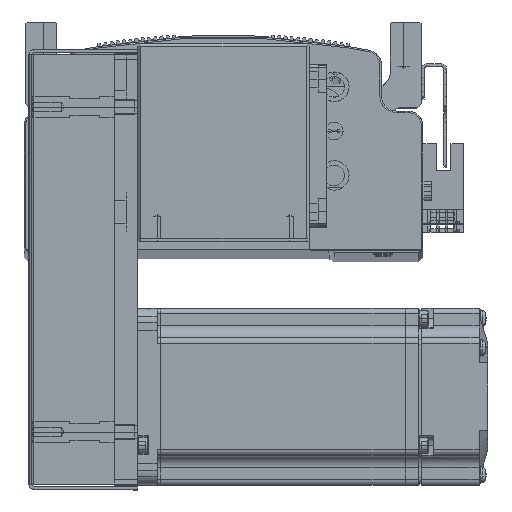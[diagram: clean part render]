
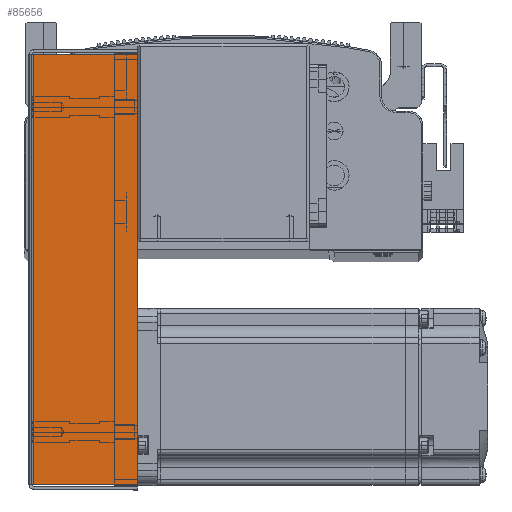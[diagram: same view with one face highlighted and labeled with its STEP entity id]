
A CAD part, top view. The second image highlights one B-rep face of the part: STEP entity #85656.
In plain terms, the highlighted planar face has unit normal (0, 0, 1) as drawn and (0, 0, -1) by its records, which use the part's own axes.
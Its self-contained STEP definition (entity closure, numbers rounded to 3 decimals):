
#7400 = PLANE ( 'NONE',  #43782 ) ;
#7402 = CARTESIAN_POINT ( 'NONE',  ( 0., 0., -34.5 ) ) ;
#7403 = DIRECTION ( 'NONE',  ( 0., 0., 1. ) ) ;
#7406 = DIRECTION ( 'NONE',  ( 0., -1., 0. ) ) ;
#14402 = EDGE_LOOP ( 'NONE', ( #75231, #75282, #75333, #75334 ) ) ;
#32034 = FACE_OUTER_BOUND ( 'NONE', #14402, .T. ) ;
#43782 = AXIS2_PLACEMENT_3D ( 'NONE', #7402, #7403, #7406 ) ;
#59638 = EDGE_CURVE ( 'NONE', #65270, #65273, #73138, .T. ) ;
#59689 = EDGE_CURVE ( 'NONE', #65265, #65270, #73285, .T. ) ;
#59694 = EDGE_CURVE ( 'NONE', #65265, #65224, #73266, .T. ) ;
#59727 = EDGE_CURVE ( 'NONE', #65224, #65273, #73331, .T. ) ;
#65224 = VERTEX_POINT ( 'NONE', #72584 ) ;
#65265 = VERTEX_POINT ( 'NONE', #72578 ) ;
#65270 = VERTEX_POINT ( 'NONE', #72559 ) ;
#65273 = VERTEX_POINT ( 'NONE', #72546 ) ;
#72546 = CARTESIAN_POINT ( 'NONE',  ( 72.793, 36., -34.5 ) ) ;
#72559 = CARTESIAN_POINT ( 'NONE',  ( -72.793, 36., -34.5 ) ) ;
#72578 = CARTESIAN_POINT ( 'NONE',  ( -72.793, 0.737, -34.5 ) ) ;
#72584 = CARTESIAN_POINT ( 'NONE',  ( 72.793, 0.737, -34.5 ) ) ;
#73138 = LINE ( 'NONE', #79249, #73140 ) ;
#73140 = VECTOR ( 'NONE', #79257, 1000. ) ;
#73266 = LINE ( 'NONE', #79603, #73267 ) ;
#73267 = VECTOR ( 'NONE', #79624, 1000. ) ;
#73272 = VECTOR ( 'NONE', #79613, 1000. ) ;
#73285 = LINE ( 'NONE', #79552, #73272 ) ;
#73297 = VECTOR ( 'NONE', #79782, 1000. ) ;
#73331 = LINE ( 'NONE', #79780, #73297 ) ;
#75231 = ORIENTED_EDGE ( 'NONE', *, *, #59694, .F. ) ;
#75282 = ORIENTED_EDGE ( 'NONE', *, *, #59689, .T. ) ;
#75333 = ORIENTED_EDGE ( 'NONE', *, *, #59638, .T. ) ;
#75334 = ORIENTED_EDGE ( 'NONE', *, *, #59727, .F. ) ;
#79249 = CARTESIAN_POINT ( 'NONE',  ( 0., 36., -34.5 ) ) ;
#79257 = DIRECTION ( 'NONE',  ( 1., 0., 0. ) ) ;
#79552 = CARTESIAN_POINT ( 'NONE',  ( -72.793, 0., -34.5 ) ) ;
#79603 = CARTESIAN_POINT ( 'NONE',  ( 74.5, 0.737, -34.5 ) ) ;
#79613 = DIRECTION ( 'NONE',  ( 0., 1., 0. ) ) ;
#79624 = DIRECTION ( 'NONE',  ( 1., 0., 0. ) ) ;
#79780 = CARTESIAN_POINT ( 'NONE',  ( 72.793, 0., -34.5 ) ) ;
#79782 = DIRECTION ( 'NONE',  ( 0., 1., 0. ) ) ;
#85656 = ADVANCED_FACE ( 'NONE', ( #32034 ), #7400, .F. ) ;
